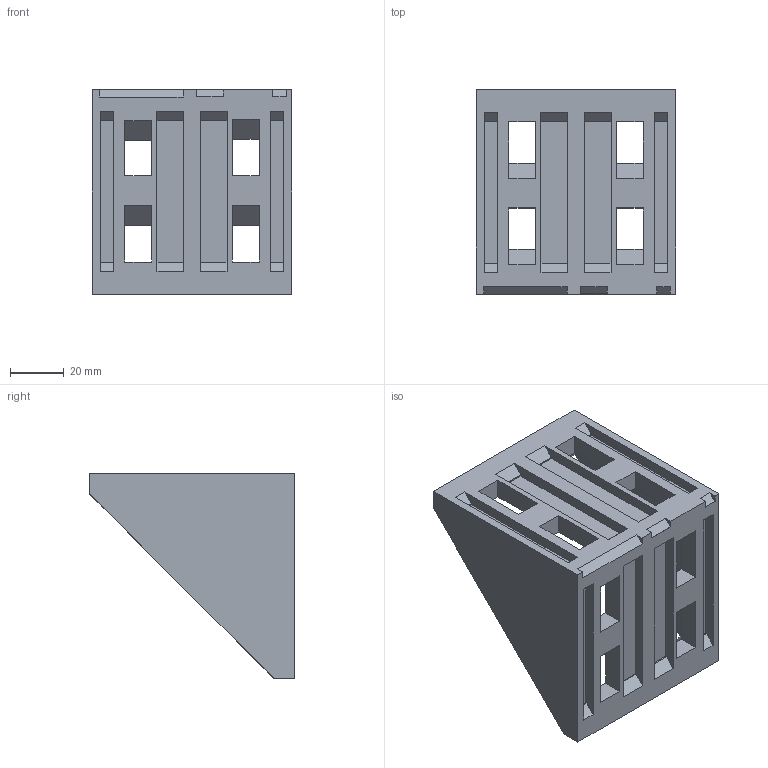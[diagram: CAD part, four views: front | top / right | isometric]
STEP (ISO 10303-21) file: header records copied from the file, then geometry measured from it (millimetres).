
FILE_DESCRIPTION (( 'STEP AP203' ), '1' );
FILE_NAME ('1071.STEP', '2016-04-16T10:56:09', ( '' ), ( '' ), 'SwSTEP 2.0', 'SolidWorks 2014', '' );
FILE_SCHEMA (( 'CONFIG_CONTROL_DESIGN' ));
Length unit declared in the file: millimetre
Products named in the file (1): 1071
Bounding box: 74 x 76 x 76 mm (x, y, z)
Volume: 84929.1 mm3; surface area: 38045.9 mm2
Topology: 1 solids, 1 shells, 115 faces, 311 edges, 206 vertices
Faces by surface type: plane 111, cylinder 4
Entity records: 3646 total; most frequent: CARTESIAN_POINT 645, ORIENTED_EDGE 622, DIRECTION 543, EDGE_CURVE 311, VECTOR 303, LINE 303, VERTEX_POINT 206, EDGE_LOOP 139
